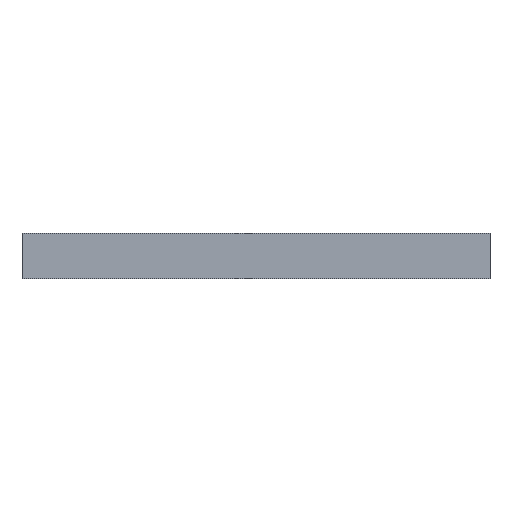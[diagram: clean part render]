
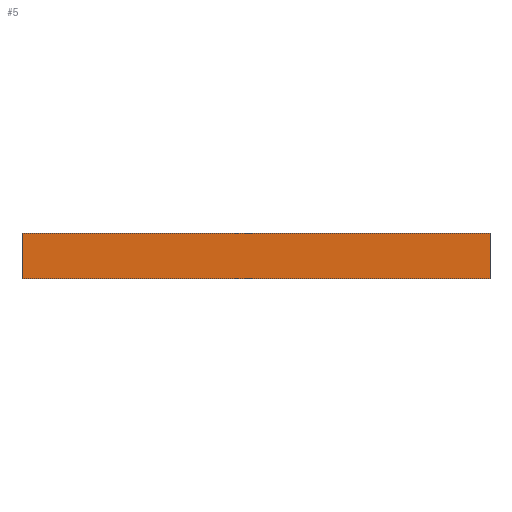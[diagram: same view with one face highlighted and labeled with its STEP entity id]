
A CAD part, top view. The second image highlights one B-rep face of the part: STEP entity #5.
In plain terms, the highlighted planar face has unit normal (0, 0, 1).
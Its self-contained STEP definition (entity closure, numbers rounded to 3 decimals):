
#5 = ADVANCED_FACE ( 'NONE', ( #72 ), #189, .F. ) ;
#31 = CARTESIAN_POINT ( 'NONE',  ( -307.5, -30., 2. ) ) ;
#32 = CARTESIAN_POINT ( 'NONE',  ( -307.5, 30., 2. ) ) ;
#35 = CARTESIAN_POINT ( 'NONE',  ( 307.5, -30., 2. ) ) ;
#36 = DIRECTION ( 'NONE',  ( 1., 0., 0. ) ) ;
#37 = CARTESIAN_POINT ( 'NONE',  ( -307.5, -30., 2. ) ) ;
#44 = CARTESIAN_POINT ( 'NONE',  ( 307.5, 30., 2. ) ) ;
#45 = DIRECTION ( 'NONE',  ( -1., 0., 0. ) ) ;
#46 = CARTESIAN_POINT ( 'NONE',  ( -307.5, 30., 2. ) ) ;
#47 = DIRECTION ( 'NONE',  ( 0., -1., 0. ) ) ;
#52 = CARTESIAN_POINT ( 'NONE',  ( -307.5, -30., 2. ) ) ;
#55 = DIRECTION ( 'NONE',  ( 0., 1., 0. ) ) ;
#57 = CARTESIAN_POINT ( 'NONE',  ( 307.5, -30., 2. ) ) ;
#72 = FACE_OUTER_BOUND ( 'NONE', #80, .T. ) ;
#77 = VECTOR ( 'NONE', #45, 1000. ) ;
#80 = EDGE_LOOP ( 'NONE', ( #84, #122, #90, #109 ) ) ;
#84 = ORIENTED_EDGE ( 'NONE', *, *, #162, .T. ) ;
#89 = LINE ( 'NONE', #46, #77 ) ;
#90 = ORIENTED_EDGE ( 'NONE', *, *, #149, .T. ) ;
#91 = LINE ( 'NONE', #52, #92 ) ;
#92 = VECTOR ( 'NONE', #47, 1000. ) ;
#98 = LINE ( 'NONE', #37, #110 ) ;
#109 = ORIENTED_EDGE ( 'NONE', *, *, #165, .T. ) ;
#110 = VECTOR ( 'NONE', #36, 1000. ) ;
#122 = ORIENTED_EDGE ( 'NONE', *, *, #169, .T. ) ;
#132 = LINE ( 'NONE', #57, #137 ) ;
#137 = VECTOR ( 'NONE', #55, 1000. ) ;
#149 = EDGE_CURVE ( 'NONE', #176, #174, #132, .T. ) ;
#157 = AXIS2_PLACEMENT_3D ( 'NONE', #194, #198, #199 ) ;
#162 = EDGE_CURVE ( 'NONE', #175, #177, #91, .T. ) ;
#165 = EDGE_CURVE ( 'NONE', #174, #175, #89, .T. ) ;
#169 = EDGE_CURVE ( 'NONE', #177, #176, #98, .T. ) ;
#174 = VERTEX_POINT ( 'NONE', #44 ) ;
#175 = VERTEX_POINT ( 'NONE', #32 ) ;
#176 = VERTEX_POINT ( 'NONE', #35 ) ;
#177 = VERTEX_POINT ( 'NONE', #31 ) ;
#189 = PLANE ( 'NONE',  #157 ) ;
#194 = CARTESIAN_POINT ( 'NONE',  ( -307.5, 30., 2. ) ) ;
#198 = DIRECTION ( 'NONE',  ( 0., 0., -1. ) ) ;
#199 = DIRECTION ( 'NONE',  ( -1., 0., 0. ) ) ;
